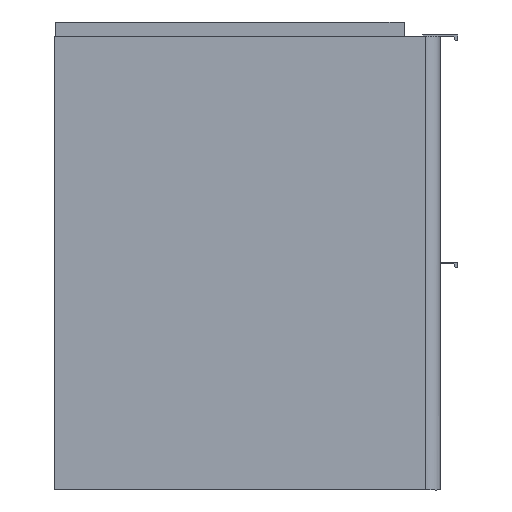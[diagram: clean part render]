
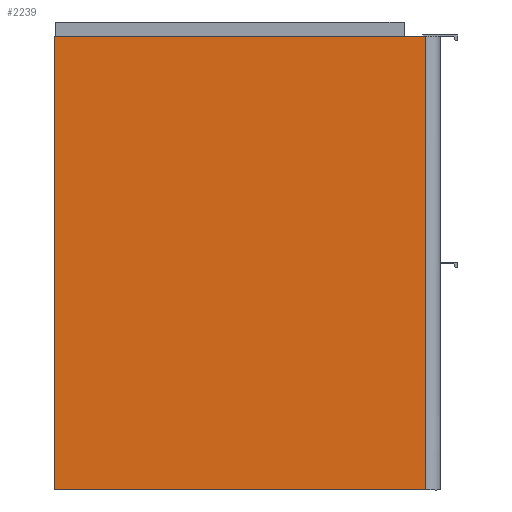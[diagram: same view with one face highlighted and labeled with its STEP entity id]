
A CAD part, left-side view. The second image highlights one B-rep face of the part: STEP entity #2239.
In plain terms, the highlighted planar face has unit normal (-1, 0, 0).
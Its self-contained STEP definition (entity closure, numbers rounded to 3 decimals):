
#2239=ADVANCED_FACE('',(#3691),#25176,.T.);
#3691=FACE_OUTER_BOUND('',#5143,.T.);
#5143=EDGE_LOOP('',(#6954,#6955,#6956,#6957));
#6954=ORIENTED_EDGE('',*,*,#15098,.F.);
#6955=ORIENTED_EDGE('',*,*,#15105,.T.);
#6956=ORIENTED_EDGE('',*,*,#15106,.T.);
#6957=ORIENTED_EDGE('',*,*,#15101,.T.);
#15098=EDGE_CURVE('',#22378,#22379,#19221,.T.);
#15101=EDGE_CURVE('',#22381,#22379,#19223,.T.);
#15105=EDGE_CURVE('',#22378,#22384,#19227,.T.);
#15106=EDGE_CURVE('',#22384,#22381,#19228,.T.);
#19221=B_SPLINE_CURVE_WITH_KNOTS('',1,(#29956,#29957),.UNSPECIFIED.,.F.,
 .F.,(2,2),(0.,515.),.UNSPECIFIED.);
#19223=B_SPLINE_CURVE_WITH_KNOTS('',1,(#29963,#29964),.UNSPECIFIED.,.F.,
 .F.,(2,2),(-421.,0.),.UNSPECIFIED.);
#19227=B_SPLINE_CURVE_WITH_KNOTS('',1,(#29971,#29972),.UNSPECIFIED.,.F.,
 .F.,(2,2),(-421.,0.),.UNSPECIFIED.);
#19228=B_SPLINE_CURVE_WITH_KNOTS('',1,(#29973,#29974),.UNSPECIFIED.,.F.,
 .F.,(2,2),(-515.,0.),.UNSPECIFIED.);
#22378=VERTEX_POINT('',#29944);
#22379=VERTEX_POINT('',#29945);
#22381=VERTEX_POINT('',#29947);
#22384=VERTEX_POINT('',#29950);
#25176=PLANE('',#27092);
#27092=AXIS2_PLACEMENT_3D('',#29938,#28327,$);
#28327=DIRECTION('',(-1.,0.,0.));
#29938=CARTESIAN_POINT('',(-357.,261.22,1978.29));
#29944=CARTESIAN_POINT('',(-357.,-202.,2544.91));
#29945=CARTESIAN_POINT('',(-357.,-202.,2029.91));
#29947=CARTESIAN_POINT('',(-357.,219.,2029.91));
#29950=CARTESIAN_POINT('',(-357.,219.,2544.91));
#29956=CARTESIAN_POINT('',(-357.,-202.,2544.91));
#29957=CARTESIAN_POINT('',(-357.,-202.,2029.91));
#29963=CARTESIAN_POINT('',(-357.,219.,2029.91));
#29964=CARTESIAN_POINT('',(-357.,-202.,2029.91));
#29971=CARTESIAN_POINT('',(-357.,-202.,2544.91));
#29972=CARTESIAN_POINT('',(-357.,219.,2544.91));
#29973=CARTESIAN_POINT('',(-357.,219.,2544.91));
#29974=CARTESIAN_POINT('',(-357.,219.,2029.91));
